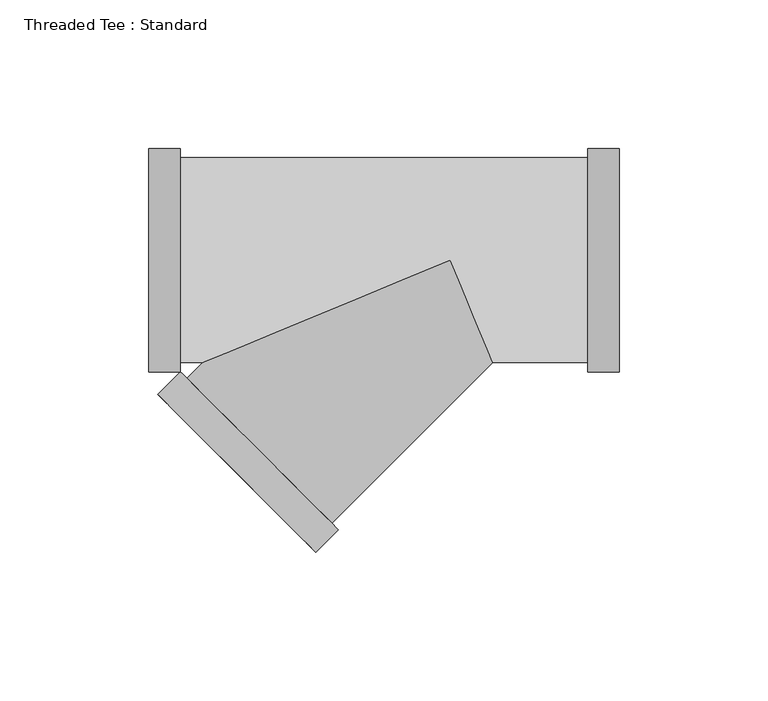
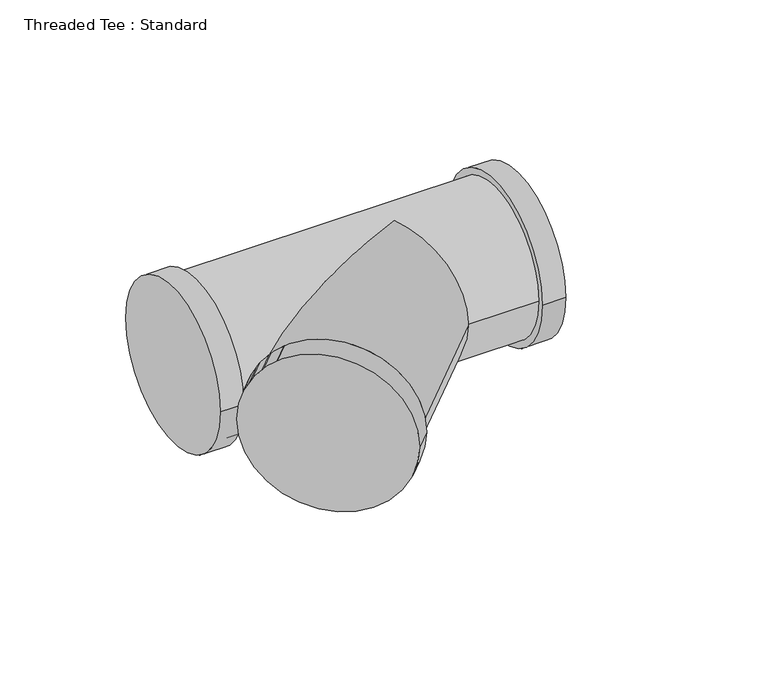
"""IFC4 building model written with IfcOpenShell, lengths in millimetres: pipe fitting geometry, Threaded Tee : Standard."""

import ifcopenshell
import ifcopenshell.guid

model = None  # the IFC model being written
_history = None  # IfcOwnerHistory: only IFC2X3 demands one
_inside = {}  # id of a spatial element -> (the spatial element, [elements in it])
_under = {}  # id of a project, library or spatial element -> (it, [spatial elements below it])
_declared = {}  # id of a project -> (the project, [libraries it declares])
_typed = {}  # id of a type object -> (the type object, [elements of that type])
_made_of = {}  # id of a material, layer set ... -> (it, [elements and type objects made of it])


def new_model(schema):
    """Start an empty IFC model of exactly this schema.

    Asked for "IFC4X3", IfcOpenShell would pick the latest addendum, in which some entities
    have other attributes; the version numbers below select the first issue.
    IFC2X3 requires an IfcOwnerHistory on every rooted entity: one is made here for all.
    """
    global model, _history
    if schema == "IFC4X3":
        model = ifcopenshell.file(schema_version=(4, 3, 0, 0))
    else:
        model = ifcopenshell.file(schema=schema)
    _inside.clear()
    _under.clear()
    _declared.clear()
    _typed.clear()
    _made_of.clear()
    _history = None
    if model.schema == "IFC2X3":
        org = make("IfcOrganization", Name="unknown")
        user = make(
            "IfcPersonAndOrganization",
            ThePerson=make("IfcPerson", FamilyName="unknown"),
            TheOrganization=org,
        )
        app = make(
            "IfcApplication",
            ApplicationDeveloper=org,
            Version="unknown",
            ApplicationFullName="unknown",
            ApplicationIdentifier="unknown",
        )
        _history = make(
            "IfcOwnerHistory",
            OwningUser=user,
            OwningApplication=app,
            ChangeAction="ADDED",
            CreationDate=0,
        )
    return model


def make(cls, **values):
    """One entity of the class cls with the attributes given. An attribute that is None is left unset."""
    return model.create_entity(
        cls, **{name: value for name, value in values.items() if value is not None}
    )


def rooted(cls, **values):
    """An entity with a GlobalId (a new one), such as an element, a storey or a relation."""
    return make(cls, GlobalId=ifcopenshell.guid.new(), OwnerHistory=_history, **values)


def si_unit(unit_type, name, prefix=None):
    """IfcSIUnit, for example si_unit("LENGTHUNIT", "METRE", prefix="MILLI")."""
    return make("IfcSIUnit", UnitType=unit_type, Prefix=prefix, Name=name)


def assignment(units):
    """IfcUnitAssignment: the units of a project."""
    return None if units is None else make("IfcUnitAssignment", Units=units)


def point(xyz):
    """IfcCartesianPoint."""
    return None if xyz is None else make("IfcCartesianPoint", Coordinates=xyz)


def direction(xyz):
    """IfcDirection."""
    return None if xyz is None else make("IfcDirection", DirectionRatios=xyz)


def frame(location, z_axis=None, x_axis=None):
    """IfcAxis2Placement3D, a coordinate frame: its origin and axes. An axis left out is left unset."""
    return make(
        "IfcAxis2Placement3D",
        Location=point(location),
        Axis=direction(z_axis),
        RefDirection=direction(x_axis),
    )


def origin():
    """The frame at (0, 0, 0) with its axes left unset."""
    return frame((0.0, 0.0, 0.0))


def place(relative_to, where):
    """IfcLocalPlacement: puts the frame where relative to a parent placement (None: the world)."""
    return make(
        "IfcLocalPlacement", PlacementRelTo=relative_to, RelativePlacement=where
    )


def context(
    kind, dimensions, precision=None, world=None, true_north=None, identifier=None
):
    """IfcGeometricRepresentationContext, for example the 3D "Model" context."""
    return make(
        "IfcGeometricRepresentationContext",
        ContextIdentifier=identifier,
        ContextType=kind,
        CoordinateSpaceDimension=dimensions,
        Precision=precision,
        WorldCoordinateSystem=world,
        TrueNorth=true_north,
    )


def project(units=None, contexts=None):
    """IfcProject with its units and contexts."""
    return rooted(
        "IfcProject",
        Name="project",
        RepresentationContexts=contexts,
        UnitsInContext=assignment(units),
    )


def spatial(cls, under=None, at=None, **own):
    """A site, building, storey or space (cls), placed at a placement, below another one or the project."""
    s = rooted(cls, ObjectPlacement=at, **own)
    if under is not None:
        _under.setdefault(under.id(), (under, []))[1].append(s)
    return s


def circle_curve(where, radius):
    """IfcCircle in the frame where."""
    return make("IfcCircle", Position=where, Radius=radius)


def ellipse_curve(where, semi_axis1, semi_axis2):
    """IfcEllipse in the frame where."""
    return make(
        "IfcEllipse", Position=where, SemiAxis1=semi_axis1, SemiAxis2=semi_axis2
    )


def shape(context_of_items, identifier, shape_type, items):
    """IfcShapeRepresentation: the items that make up one representation, for example the "Body"."""
    return make(
        "IfcShapeRepresentation",
        ContextOfItems=context_of_items,
        RepresentationIdentifier=identifier,
        RepresentationType=shape_type,
        Items=items,
    )


def source(mapping_origin, context_of_items, identifier, shape_type, items):
    """IfcRepresentationMap: a shape defined once, which mapped items show again and again."""
    return make(
        "IfcRepresentationMap",
        MappingOrigin=mapping_origin,
        MappedRepresentation=shape(context_of_items, identifier, shape_type, items),
    )


def transform(
    local_origin,
    x_axis=None,
    y_axis=None,
    z_axis=None,
    scale=None,
    scale2=None,
    scale3=None,
    uniform=True,
):
    """IfcCartesianTransformationOperator3D, or its non-uniform kind. x_axis, y_axis, z_axis: its Axis1, 2, 3."""
    if uniform:
        return make(
            "IfcCartesianTransformationOperator3D",
            Axis1=direction(x_axis),
            Axis2=direction(y_axis),
            LocalOrigin=point(local_origin),
            Scale=scale,
            Axis3=direction(z_axis),
        )
    return make(
        "IfcCartesianTransformationOperator3DnonUniform",
        Axis1=direction(x_axis),
        Axis2=direction(y_axis),
        LocalOrigin=point(local_origin),
        Scale=scale,
        Axis3=direction(z_axis),
        Scale2=scale2,
        Scale3=scale3,
    )


def mapped(mapping_source, mapping_target):
    """IfcMappedItem: shows the shape of a source again, moved by a transform."""
    return make(
        "IfcMappedItem", MappingSource=mapping_source, MappingTarget=mapping_target
    )


def made_of(thing, what):
    """Note that an element or type object is made of a material, layer set ...; save() writes the relation."""
    if what is not None:
        _made_of.setdefault(what.id(), (what, []))[1].append(thing)
    return thing


def element(
    cls,
    number,
    at=None,
    inside=None,
    cuts=None,
    type_object=None,
    material=None,
    context=None,
    identifier="Body",
    shape_type=None,
    held_by="IfcProductDefinitionShape",
    body=None,
    shapes=None,
    **own,
):
    """One element of the class cls, such as IfcWall. Its Tag is "e" and its number.

    at: its placement. inside: the storey or other place that contains it. cuts: it is an
    opening in that element (IfcRelVoidsElement). A single representation is given by context,
    identifier, shape_type and body (its items); several are given by shapes. held_by: the class
    of the entity that holds the representations. save() writes the other relations.
    """
    e = rooted(cls, Tag="e%d" % number, ObjectPlacement=at, **own)
    if body is not None:
        shapes = [shape(context, identifier, shape_type, body)]
    if shapes is not None:
        e.Representation = make(held_by, Representations=shapes)
    if inside is not None:
        _inside.setdefault(inside.id(), (inside, []))[1].append(e)
    if cuts is not None:
        rooted(
            "IfcRelVoidsElement", RelatingBuildingElement=cuts, RelatedOpeningElement=e
        )
    if type_object is not None:
        _typed.setdefault(type_object.id(), (type_object, []))[1].append(e)
    return made_of(e, material)


def aggregate(whole, parts):
    """IfcRelAggregates: a whole, such as a stair, and the parts it consists of."""
    return rooted("IfcRelAggregates", RelatingObject=whole, RelatedObjects=parts)


def save(model, path):
    """Write the relations noted so far, then the file.

    IfcRelAggregates (storeys below a building ...), IfcRelContainedInSpatialStructure (elements
    in a storey), IfcRelDefinesByType, IfcRelAssociatesMaterial and IfcRelDeclares: one each for
    every whole, place, type object, material and project.
    """
    for whole, parts in _under.values():
        aggregate(whole, parts)
    for where, things in _inside.values():
        rooted(
            "IfcRelContainedInSpatialStructure",
            RelatedElements=things,
            RelatingStructure=where,
        )
    for kind, things in _typed.values():
        rooted("IfcRelDefinesByType", RelatedObjects=things, RelatingType=kind)
    for what, things in _made_of.values():
        rooted("IfcRelAssociatesMaterial", RelatedObjects=things, RelatingMaterial=what)
    for by, libraries in _declared.values():
        rooted("IfcRelDeclares", RelatingContext=by, RelatedDefinitions=libraries)
    model.write(path)


def plane_surface(at):
    """IfcPlane: the flat surface through the origin of the frame at, square to its z axis."""
    return make("IfcPlane", Position=at)


def cylinder_surface(at, radius):
    """IfcCylindricalSurface: all points at the distance radius from the z axis of the frame at."""
    return make("IfcCylindricalSurface", Position=at, Radius=radius)


def advanced_brep(points, edges, surfaces, faces):
    """IfcAdvancedBrep: a solid bounded by faces that lie on surfaces and meet in shared edges.

    An edge is (start, end): straight between two places in points (the first is 0);
    or (start, end, curve); or (start, end, curve, False) where it runs against its curve.
    A face is (place in surfaces, loops), or (place, loops, False) where it looks against
    its surface's normal. A loop lists edges by number (the first is 1), with a minus sign
    where the edge is run from its end to its start. The first loop is the outer one.
    """
    corners = [point(p) for p in points]
    vertices = [make("IfcVertexPoint", VertexGeometry=c) for c in corners]
    made = []
    for start, end, *more in edges:
        made.append(
            make(
                "IfcEdgeCurve",
                EdgeStart=vertices[start],
                EdgeEnd=vertices[end],
                EdgeGeometry=more[0] if more else make("IfcPolyline", Points=[corners[start], corners[end]]),
                SameSense=more[1] if len(more) > 1 else True,
            )
        )
    hull = []
    for where, loops, *sense in faces:
        bounds = []
        for j, loop in enumerate(loops):
            ring = [make("IfcOrientedEdge", EdgeElement=made[abs(k) - 1], Orientation=k > 0) for k in loop]
            bounds.append(
                make(
                    "IfcFaceOuterBound" if j == 0 else "IfcFaceBound",
                    Bound=make("IfcEdgeLoop", EdgeList=ring),
                    Orientation=True,
                )
            )
        hull.append(make("IfcAdvancedFace", Bounds=bounds, FaceSurface=surfaces[where], SameSense=sense[0] if sense else True))
    return make("IfcAdvancedBrep", Outer=make("IfcClosedShell", CfsFaces=hull))


def threaded_tee_standard_6c852c21(model_context):
    return source(origin(), model_context, "Body", "AdvancedBrep", [
        advanced_brep(
        [(-101.5951406, -37.65, 0.0), (-101.5951406, 37.65, 0.0), (-90.8951406, -37.65, 0.0), (-90.8951406, 37.65, 0.0), (-90.8951406, 34.54, 0.0), (-90.8951406, -34.54, 0.0), (46.2872813, 34.54, 0.0), (46.2872813, -34.54, 0.0), (14.3069364, -34.54, 0.0), (0.0, 0.0, -34.54), (-83.3869364, -34.54, 0.0), (0.0, 0.0, 34.54), (46.2872813, -37.65, 0.0), (46.2872813, 37.65, 0.0), (56.9872813, -37.65, 0.0), (56.9872813, 37.65, 0.0), (-88.6960385, -39.8491021, 0.0), (-39.8491021, -88.6960385, 0.0), (-90.8951406, -37.65, 0.0), (-37.65, -90.8951406, 0.0), (-98.4611832, -45.2160426, 0.0), (-45.2160426, -98.4611832, 0.0)],
        [
            (0, 1, circle_curve(frame((-101.5951406, 0.0, 0.0), z_axis=(-1.0, 0.0, 0.0), x_axis=(0.0, 1.0, 0.0)), 37.65)),
            (1, 0, circle_curve(frame((-101.5951406, 0.0, 0.0), z_axis=(-1.0, 0.0, 0.0), x_axis=(0.0, 1.0, 0.0)), 37.65)),
            (2, 3, circle_curve(frame((-90.8951406, 0.0, 0.0), z_axis=(1.0, 0.0, 0.0), x_axis=(0.0, 1.0, 0.0)), 37.65)),
            (3, 2, circle_curve(frame((-90.8951406, 0.0, 0.0), z_axis=(1.0, 0.0, 0.0), x_axis=(0.0, 1.0, 0.0)), 37.65)),
            (4, 5, circle_curve(frame((-90.8951406, 0.0, 0.0), z_axis=(-1.0, 0.0, 0.0), x_axis=(0.0, 0.0, -1.0)), 34.54)),
            (5, 4, circle_curve(frame((-90.8951406, 0.0, 0.0), z_axis=(-1.0, 0.0, 0.0), x_axis=(0.0, 0.0, 1.0)), 34.54)),
            (0, 2),
            (3, 1),
            (4, 6),
            (6, 7, circle_curve(frame((46.2872813, 0.0, 0.0), z_axis=(-1.0, 0.0, 0.0), x_axis=(0.0, 0.0, -1.0)), 34.54)),
            (7, 8),
            (8, 9, ellipse_curve(frame((0.0, 0.0, 0.0), z_axis=(0.9238795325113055, 0.38268343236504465, 0.0), x_axis=(0.3826834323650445, -0.9238795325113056, 0.0)), 37.3858266, 34.54)),
            (9, 10, ellipse_curve(frame((0.0, 0.0, 0.0), z_axis=(-0.38268343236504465, 0.9238795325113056, 0.0), x_axis=(0.9238795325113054, 0.3826834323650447, 0.0)), 90.2573696, 34.54)),
            (10, 5),
            (10, 11, ellipse_curve(frame((0.0, 0.0, 0.0), z_axis=(-0.38268343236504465, 0.9238795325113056, 0.0), x_axis=(0.9238795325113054, 0.3826834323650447, 0.0)), 90.2573696, 34.54)),
            (11, 8, ellipse_curve(frame((0.0, 0.0, 0.0), z_axis=(0.9238795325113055, 0.38268343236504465, 0.0), x_axis=(0.3826834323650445, -0.9238795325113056, 0.0)), 37.3858266, 34.54)),
            (7, 6, circle_curve(frame((46.2872813, 0.0, 0.0), z_axis=(-1.0, 0.0, 0.0), x_axis=(0.0, 0.0, 1.0)), 34.54)),
            (12, 13, circle_curve(frame((46.2872813, 0.0, 0.0), z_axis=(-1.0, 0.0, 0.0), x_axis=(0.0, 1.0, 0.0)), 37.65)),
            (13, 12, circle_curve(frame((46.2872813, 0.0, 0.0), z_axis=(-1.0, 0.0, 0.0), x_axis=(0.0, 1.0, 0.0)), 37.65)),
            (14, 15, circle_curve(frame((56.9872813, 0.0, 0.0), z_axis=(1.0, 0.0, 0.0), x_axis=(0.0, 1.0, 0.0)), 37.65)),
            (15, 14, circle_curve(frame((56.9872813, 0.0, 0.0), z_axis=(1.0, 0.0, 0.0), x_axis=(0.0, 1.0, 0.0)), 37.65)),
            (12, 14),
            (15, 13),
            (10, 16),
            (16, 17, circle_curve(frame((-64.2725703, -64.2725703, 0.0), z_axis=(0.7071067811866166, 0.7071067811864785, 0.0), x_axis=(0.7071067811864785, -0.7071067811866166, 0.0)), 34.54)),
            (17, 8),
            (17, 16, circle_curve(frame((-64.2725703, -64.2725703, 0.0), z_axis=(0.7071067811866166, 0.7071067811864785, 0.0), x_axis=(0.7071067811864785, -0.7071067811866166, 0.0)), 34.54)),
            (18, 19, circle_curve(frame((-64.2725703, -64.2725703, 0.0), z_axis=(0.7071067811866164, 0.7071067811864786, 0.0), x_axis=(0.7071067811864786, -0.7071067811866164, 0.0)), 37.65)),
            (19, 18, circle_curve(frame((-64.2725703, -64.2725703, 0.0), z_axis=(0.7071067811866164, 0.7071067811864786, 0.0), x_axis=(0.7071067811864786, -0.7071067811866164, 0.0)), 37.65)),
            (20, 21, circle_curve(frame((-71.8386129, -71.8386129, 0.0), z_axis=(-0.7071067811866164, -0.7071067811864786, 0.0), x_axis=(0.7071067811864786, -0.7071067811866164, 0.0)), 37.65)),
            (21, 20, circle_curve(frame((-71.8386129, -71.8386129, 0.0), z_axis=(-0.7071067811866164, -0.7071067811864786, 0.0), x_axis=(0.7071067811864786, -0.7071067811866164, 0.0)), 37.65)),
            (18, 20),
            (21, 19),
        ],
        [
            plane_surface(frame((-101.5951406, 0.0, 0.0), z_axis=(-1.0, 0.0, 0.0), x_axis=(0.0, 0.0, 1.0))),
            plane_surface(frame((-90.8951406, 0.0, 0.0), z_axis=(1.0, 0.0, 0.0), x_axis=(0.0, 0.0, 1.0))),
            cylinder_surface(frame((-101.5951406, 0.0, 0.0), z_axis=(-1.0, 0.0, 0.0), x_axis=(0.0, 1.0, 0.0)), 37.65),
            cylinder_surface(frame((-90.8951406, 0.0, 0.0), z_axis=(1.0, 0.0, 0.0), x_axis=(0.0, 0.0, -1.0)), 34.54),
            cylinder_surface(frame((-90.8951406, 0.0, 0.0), z_axis=(1.0, 0.0, 0.0), x_axis=(0.0, 0.0, 1.0)), 34.54),
            plane_surface(frame((46.2872813, 0.0, 0.0), z_axis=(-1.0, 0.0, 0.0), x_axis=(0.0, 0.0, 1.0))),
            plane_surface(frame((56.9872813, 0.0, 0.0), z_axis=(1.0, 0.0, 0.0), x_axis=(0.0, 0.0, 1.0))),
            cylinder_surface(frame((46.2872813, 0.0, 0.0), z_axis=(-1.0, 0.0, 0.0), x_axis=(0.0, 1.0, 0.0)), 37.65),
            cylinder_surface(frame((0.0, 0.0, 0.0), z_axis=(0.7071067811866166, 0.7071067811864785, 0.0), x_axis=(0.7071067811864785, -0.7071067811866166, 0.0)), 34.54),
            plane_surface(frame((-64.2725703, -64.2725703, 0.0), z_axis=(0.7071067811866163, 0.7071067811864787, 0.0), x_axis=(0.0, 0.0, 1.0))),
            plane_surface(frame((-71.8386129, -71.8386129, 0.0), z_axis=(-0.7071067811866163, -0.7071067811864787, 0.0), x_axis=(0.0, 0.0, 1.0))),
            cylinder_surface(frame((-64.2725703, -64.2725703, 0.0), z_axis=(0.7071067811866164, 0.7071067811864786, 0.0), x_axis=(0.7071067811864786, -0.7071067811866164, 0.0)), 37.65),
        ],
        [
            (0, [[1, 2]]),
            (1, [[3, 4], [5, 6]]),
            (2, [[-1, 7, -4, 8]]),
            (2, [[-2, -8, -3, -7]]),
            (3, [[9, 10, 11, 12, 13, 14, -5]]),
            (4, [[-9, -6, -14, 15, 16, -11, 17]]),
            (5, [[18, 19], [-10, -17]]),
            (6, [[20, 21]]),
            (7, [[-18, 22, -21, 23]]),
            (7, [[-19, -23, -20, -22]]),
            (8, [[24, 25, 26, -16, -15]]),
            (8, [[-24, -13, -12, -26, 27]]),
            (9, [[28, 29], [-25, -27]]),
            (10, [[30, 31]]),
            (11, [[-28, 32, -31, 33]]),
            (11, [[-29, -33, -30, -32]]),
        ],
    ),
        advanced_brep(
        [(-90.8951406, 34.54, 0.0), (46.2872813, 34.54, 0.0), (46.2872813, -34.54, 0.0), (14.3069364, -34.54, 0.0), (0.0, 0.0, -34.54), (-83.3869364, -34.54, 0.0), (-90.8951406, -34.54, 0.0), (0.0, 0.0, 34.54), (-101.5951406, -37.65, 0.0), (-101.5951406, 37.65, 0.0), (-90.8951406, -37.65, 0.0), (-90.8951406, 37.65, 0.0), (46.2872813, -37.65, 0.0), (46.2872813, 37.65, 0.0), (56.9872813, -37.65, 0.0), (56.9872813, 37.65, 0.0), (-88.6960385, -39.8491021, 0.0), (-39.8491021, -88.6960385, 0.0), (-45.2160426, -98.4611832, 0.0), (-98.4611832, -45.2160426, 0.0), (-37.65, -90.8951406, 0.0), (-90.8951406, -37.65, 0.0)],
        [
            (0, 1),
            (1, 2, circle_curve(frame((46.2872813, 0.0, 0.0), z_axis=(-1.0, 0.0, 0.0), x_axis=(0.0, 0.0, -1.0)), 34.54)),
            (2, 3),
            (3, 4, ellipse_curve(frame((0.0, 0.0, 0.0), z_axis=(0.9238795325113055, 0.38268343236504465, 0.0), x_axis=(0.3826834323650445, -0.9238795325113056, 0.0)), 37.3858266, 34.54)),
            (4, 5, ellipse_curve(frame((0.0, 0.0, 0.0), z_axis=(-0.38268343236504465, 0.9238795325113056, 0.0), x_axis=(0.9238795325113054, 0.3826834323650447, 0.0)), 90.2573696, 34.54)),
            (5, 6),
            (6, 0, circle_curve(frame((-90.8951406, 0.0, 0.0), z_axis=(1.0, 0.0, 0.0), x_axis=(0.0, 0.0, -1.0)), 34.54)),
            (0, 6, circle_curve(frame((-90.8951406, 0.0, 0.0), z_axis=(1.0, 0.0, 0.0), x_axis=(0.0, 0.0, 1.0)), 34.54)),
            (5, 7, ellipse_curve(frame((0.0, 0.0, 0.0), z_axis=(-0.38268343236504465, 0.9238795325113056, 0.0), x_axis=(0.9238795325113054, 0.3826834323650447, 0.0)), 90.2573696, 34.54)),
            (7, 3, ellipse_curve(frame((0.0, 0.0, 0.0), z_axis=(0.9238795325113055, 0.38268343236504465, 0.0), x_axis=(0.3826834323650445, -0.9238795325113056, 0.0)), 37.3858266, 34.54)),
            (2, 1, circle_curve(frame((46.2872813, 0.0, 0.0), z_axis=(-1.0, 0.0, 0.0), x_axis=(0.0, 0.0, 1.0)), 34.54)),
            (8, 9, circle_curve(frame((-101.5951406, 0.0, 0.0), z_axis=(-1.0, 0.0, 0.0), x_axis=(0.0, 1.0, 0.0)), 37.65)),
            (9, 8, circle_curve(frame((-101.5951406, 0.0, 0.0), z_axis=(-1.0, 0.0, 0.0), x_axis=(0.0, 1.0, 0.0)), 37.65)),
            (10, 11, circle_curve(frame((-90.8951406, 0.0, 0.0), z_axis=(1.0, 0.0, 0.0), x_axis=(0.0, 1.0, 0.0)), 37.65)),
            (11, 10, circle_curve(frame((-90.8951406, 0.0, 0.0), z_axis=(1.0, 0.0, 0.0), x_axis=(0.0, 1.0, 0.0)), 37.65)),
            (8, 10),
            (11, 9),
            (12, 13, circle_curve(frame((46.2872813, 0.0, 0.0), z_axis=(-1.0, 0.0, 0.0), x_axis=(0.0, 1.0, 0.0)), 37.65)),
            (13, 12, circle_curve(frame((46.2872813, 0.0, 0.0), z_axis=(-1.0, 0.0, 0.0), x_axis=(0.0, 1.0, 0.0)), 37.65)),
            (14, 15, circle_curve(frame((56.9872813, 0.0, 0.0), z_axis=(1.0, 0.0, 0.0), x_axis=(0.0, 1.0, 0.0)), 37.65)),
            (15, 14, circle_curve(frame((56.9872813, 0.0, 0.0), z_axis=(1.0, 0.0, 0.0), x_axis=(0.0, 1.0, 0.0)), 37.65)),
            (12, 14),
            (15, 13),
            (5, 16),
            (16, 17, circle_curve(frame((-64.2725703, -64.2725703, 0.0), z_axis=(0.7071067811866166, 0.7071067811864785, 0.0), x_axis=(0.7071067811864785, -0.7071067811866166, 0.0)), 34.54)),
            (17, 3),
            (17, 16, circle_curve(frame((-64.2725703, -64.2725703, 0.0), z_axis=(0.7071067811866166, 0.7071067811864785, 0.0), x_axis=(0.7071067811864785, -0.7071067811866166, 0.0)), 34.54)),
            (18, 19, circle_curve(frame((-71.8386129, -71.8386129, 0.0), z_axis=(-0.7071067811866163, -0.7071067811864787, 0.0), x_axis=(-0.7071067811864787, 0.7071067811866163, 0.0)), 37.65)),
            (19, 18, circle_curve(frame((-71.8386129, -71.8386129, 0.0), z_axis=(-0.7071067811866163, -0.7071067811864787, 0.0), x_axis=(-0.7071067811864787, 0.7071067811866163, 0.0)), 37.65)),
            (20, 21, circle_curve(frame((-64.2725703, -64.2725703, 0.0), z_axis=(0.7071067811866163, 0.7071067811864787, 0.0), x_axis=(-0.7071067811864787, 0.7071067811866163, 0.0)), 37.65)),
            (21, 20, circle_curve(frame((-64.2725703, -64.2725703, 0.0), z_axis=(0.7071067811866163, 0.7071067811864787, 0.0), x_axis=(-0.7071067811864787, 0.7071067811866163, 0.0)), 37.65)),
            (18, 20),
            (21, 19),
        ],
        [
            cylinder_surface(frame((-90.8951406, 0.0, 0.0), z_axis=(1.0, 0.0, 0.0), x_axis=(0.0, 0.0, -1.0)), 34.54),
            cylinder_surface(frame((-90.8951406, 0.0, 0.0), z_axis=(1.0, 0.0, 0.0), x_axis=(0.0, 0.0, 1.0)), 34.54),
            plane_surface(frame((-101.5951406, 0.0, 0.0), z_axis=(-1.0, 0.0, 0.0), x_axis=(0.0, 0.0, 1.0))),
            plane_surface(frame((-90.8951406, 0.0, 0.0), z_axis=(1.0, 0.0, 0.0), x_axis=(0.0, 0.0, 1.0))),
            cylinder_surface(frame((-101.5951406, 0.0, 0.0), z_axis=(-1.0, 0.0, 0.0), x_axis=(0.0, 1.0, 0.0)), 37.65),
            plane_surface(frame((46.2872813, 0.0, 0.0), z_axis=(-1.0, 0.0, 0.0), x_axis=(0.0, 0.0, 1.0))),
            plane_surface(frame((56.9872813, 0.0, 0.0), z_axis=(1.0, 0.0, 0.0), x_axis=(0.0, 0.0, 1.0))),
            cylinder_surface(frame((46.2872813, 0.0, 0.0), z_axis=(-1.0, 0.0, 0.0), x_axis=(0.0, 1.0, 0.0)), 37.65),
            cylinder_surface(frame((0.0, 0.0, 0.0), z_axis=(0.7071067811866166, 0.7071067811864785, 0.0), x_axis=(0.7071067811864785, -0.7071067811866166, 0.0)), 34.54),
            plane_surface(frame((-71.8386129, -71.8386129, 0.0), z_axis=(-0.7071067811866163, -0.7071067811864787, 0.0), x_axis=(0.0, 0.0, 1.0))),
            plane_surface(frame((-64.2725703, -64.2725703, 0.0), z_axis=(0.7071067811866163, 0.7071067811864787, 0.0), x_axis=(0.0, 0.0, 1.0))),
            cylinder_surface(frame((-71.8386129, -71.8386129, 0.0), z_axis=(-0.7071067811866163, -0.7071067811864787, 0.0), x_axis=(-0.7071067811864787, 0.7071067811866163, 0.0)), 37.65),
        ],
        [
            (0, [[1, 2, 3, 4, 5, 6, 7]]),
            (1, [[-1, 8, -6, 9, 10, -3, 11]]),
            (2, [[12, 13]]),
            (3, [[14, 15], [-7, -8]]),
            (4, [[-12, 16, -15, 17]]),
            (4, [[-13, -17, -14, -16]]),
            (5, [[18, 19], [-2, -11]]),
            (6, [[20, 21]]),
            (7, [[-18, 22, -21, 23]]),
            (7, [[-19, -23, -20, -22]]),
            (8, [[24, 25, 26, -10, -9]]),
            (8, [[-24, -5, -4, -26, 27]]),
            (9, [[28, 29]]),
            (10, [[30, 31], [-25, -27]]),
            (11, [[-28, 32, -31, 33]]),
            (11, [[-29, -33, -30, -32]]),
        ],
    ),
    ])


if __name__ == "__main__":
    model = new_model("IFC4")
    model_context = context("Model", 3, world=origin())
    ifc_project = project(units=[si_unit("LENGTHUNIT", "METRE", prefix="MILLI")], contexts=[model_context])
    site = spatial("IfcSite", under=ifc_project)
    building = spatial("IfcBuilding", under=site)
    placement = place(None, origin())
    threaded_tee_standard_shape = threaded_tee_standard_6c852c21(model_context)
    element("IfcPipeFitting", 1, ObjectType="Threaded Tee : Standard", at=placement, inside=building, context=model_context, shape_type="MappedRepresentation", body=[
        mapped(threaded_tee_standard_shape, transform((0.0, 0.0, 0.0), x_axis=(1.0, 0.0, 0.0), y_axis=(0.0, 1.0, 0.0), z_axis=(0.0, 0.0, 1.0))),
    ])
    save(model, "model.ifc")
